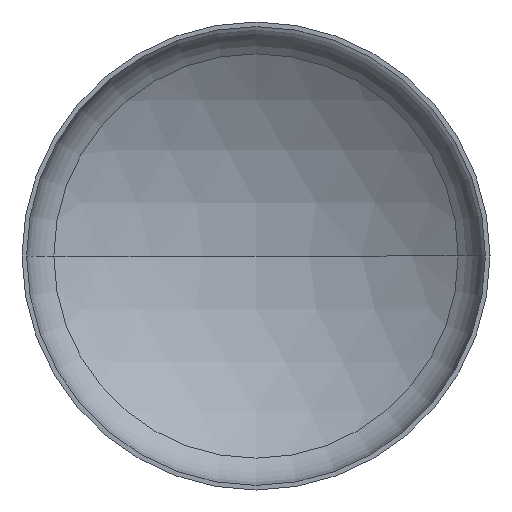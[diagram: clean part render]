
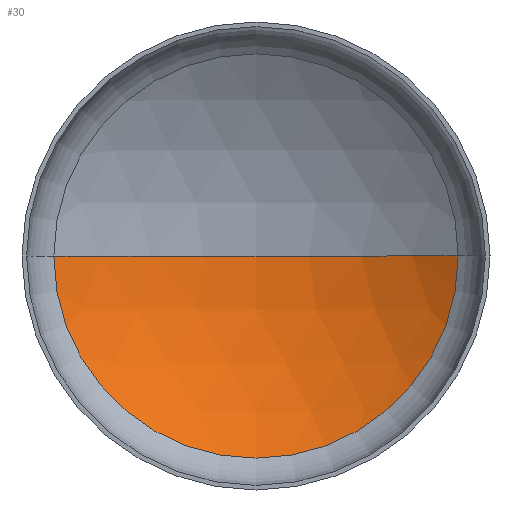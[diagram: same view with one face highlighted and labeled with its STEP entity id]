
A CAD part, front view. The second image highlights one B-rep face of the part: STEP entity #30.
In plain terms, the highlighted spherical face has radius 159.2 mm.
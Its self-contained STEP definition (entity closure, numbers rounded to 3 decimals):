
#13 = EDGE_CURVE ( 'NONE', #47, #235, #410, .T. ) ;
#30 = ADVANCED_FACE ( 'NONE', ( #94 ), #156, .F. ) ;
#32 = CARTESIAN_POINT ( 'NONE',  ( -88.124, 31.385, 0. ) ) ;
#39 = CARTESIAN_POINT ( 'NONE',  ( 88.124, 31.385, 0. ) ) ;
#47 = VERTEX_POINT ( 'NONE', #39 ) ;
#58 = VERTEX_POINT ( 'NONE', #389 ) ;
#63 = DIRECTION ( 'NONE',  ( 0., 0., 1. ) ) ;
#71 = ORIENTED_EDGE ( 'NONE', *, *, #13, .F. ) ;
#77 = ORIENTED_EDGE ( 'NONE', *, *, #223, .F. ) ;
#79 = AXIS2_PLACEMENT_3D ( 'NONE', #282, #63, #192 ) ;
#87 = AXIS2_PLACEMENT_3D ( 'NONE', #396, #106, #347 ) ;
#94 = FACE_OUTER_BOUND ( 'NONE', #288, .T. ) ;
#106 = DIRECTION ( 'NONE',  ( 0., 0., -1. ) ) ;
#123 = DIRECTION ( 'NONE',  ( 0., 1., 0. ) ) ;
#135 = CARTESIAN_POINT ( 'NONE',  ( 0., -101.2, 0. ) ) ;
#148 = AXIS2_PLACEMENT_3D ( 'NONE', #135, #200, #357 ) ;
#156 = SPHERICAL_SURFACE ( 'NONE', #79, 159.2 ) ;
#192 = DIRECTION ( 'NONE',  ( -1., 0., 0. ) ) ;
#200 = DIRECTION ( 'NONE',  ( 0., 0., 1. ) ) ;
#210 = CIRCLE ( 'NONE', #148, 159.2 ) ;
#222 = ORIENTED_EDGE ( 'NONE', *, *, #397, .T. ) ;
#223 = EDGE_CURVE ( 'NONE', #235, #58, #273, .T. ) ;
#235 = VERTEX_POINT ( 'NONE', #32 ) ;
#273 = CIRCLE ( 'NONE', #87, 159.2 ) ;
#282 = CARTESIAN_POINT ( 'NONE',  ( 0., -101.2, 0. ) ) ;
#288 = EDGE_LOOP ( 'NONE', ( #71, #222, #77 ) ) ;
#343 = CARTESIAN_POINT ( 'NONE',  ( 0., 31.385, 0. ) ) ;
#347 = DIRECTION ( 'NONE',  ( -1., 0., 0. ) ) ;
#357 = DIRECTION ( 'NONE',  ( 1., 0., 0. ) ) ;
#368 = AXIS2_PLACEMENT_3D ( 'NONE', #343, #123, #381 ) ;
#381 = DIRECTION ( 'NONE',  ( -1., 0., 0. ) ) ;
#389 = CARTESIAN_POINT ( 'NONE',  ( 0., 58., 0. ) ) ;
#396 = CARTESIAN_POINT ( 'NONE',  ( 0., -101.2, 0. ) ) ;
#397 = EDGE_CURVE ( 'NONE', #47, #58, #210, .T. ) ;
#410 = CIRCLE ( 'NONE', #368, 88.124 ) ;
